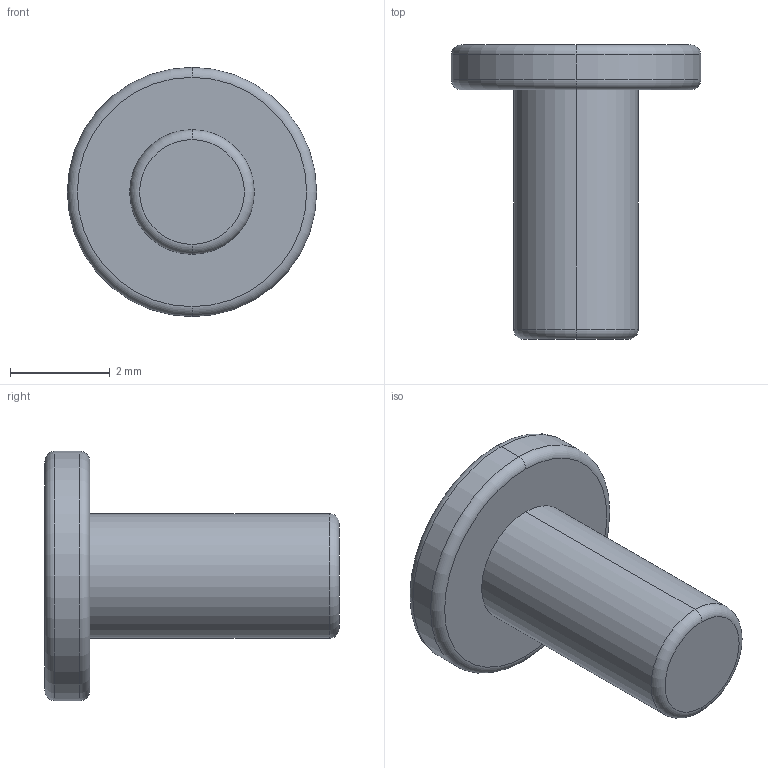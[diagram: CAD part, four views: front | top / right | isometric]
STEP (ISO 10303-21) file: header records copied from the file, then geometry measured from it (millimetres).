
FILE_DESCRIPTION (( 'STEP AP203' ), '1' );
FILE_NAME ('螺丝（M2.5x5）十字.STEP', '2025-06-04T09:07:45', ( '' ), ( '' ), 'SwSTEP 2.0', 'SolidWorks 2020', '' );
FILE_SCHEMA (( 'CONFIG_CONTROL_DESIGN' ));
Length unit declared in the file: millimetre
Products named in the file (1): 蹟佪ㄗM2.5x5ㄘ坋趼
Bounding box: 5 x 5.9 x 5 mm (x, y, z)
Volume: 41.2 mm3; surface area: 94.1 mm2
Topology: 1 solids, 1 shells, 26 faces, 60 edges, 38 vertices
Faces by surface type: plane 16, torus 6, cylinder 4
Entity records: 813 total; most frequent: DIRECTION 134, CARTESIAN_POINT 125, ORIENTED_EDGE 120, EDGE_CURVE 60, AXIS2_PLACEMENT_3D 47, LINE 40, VECTOR 40, VERTEX_POINT 38
